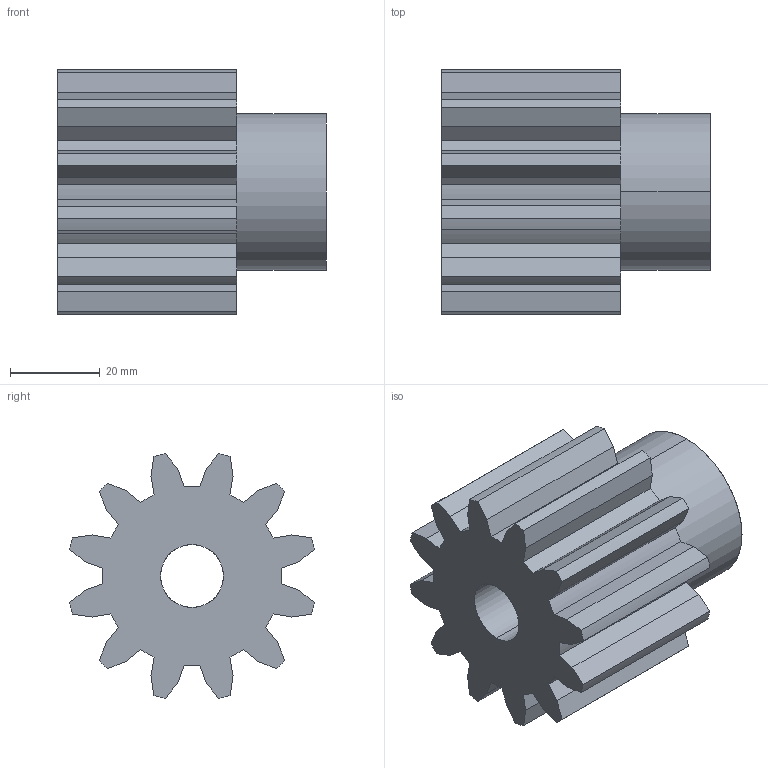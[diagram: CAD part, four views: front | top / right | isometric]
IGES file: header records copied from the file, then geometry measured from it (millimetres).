
Start section: SolidWorks IGES file using analytic representation for surfaces
Global section: file name: C:\Users\Honza\Desktop\Matis (Hotove)\Èelní ozubená kola\PM\MODUL 4\PM 31012.IGS; native system: SolidWorks 2010; preprocessor: SolidWorks 2010; author: Honza; date: 130925.162854; units: millimetre
Bounding box: 60 x 54.72 x 54.72 mm (x, y, z)
Surface area: 19366.5 mm2 (no closed solid volume)
Topology: 0 solids, 0 shells, 79 faces, 641 edges, 641 vertices
Faces by surface type: bspline 51, revolution 28
